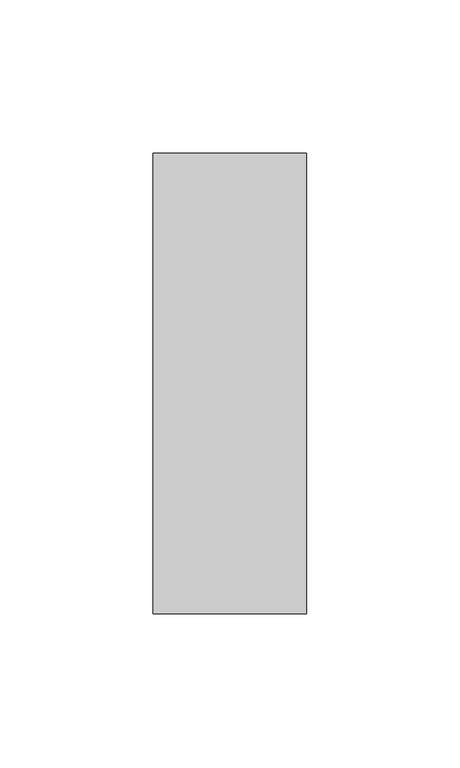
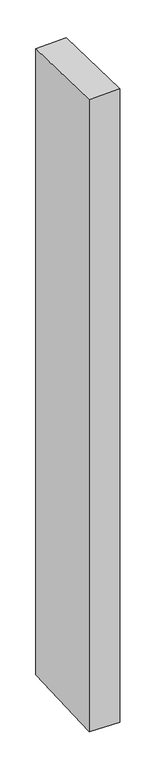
"""IFC4 building model written with IfcOpenShell, lengths in millimetres: member geometry, Прямоугольный импост : 50 x 150 мм."""

import ifcopenshell
import ifcopenshell.guid

model = None  # the IFC model being written
_history = None  # IfcOwnerHistory: only IFC2X3 demands one
_inside = {}  # id of a spatial element -> (the spatial element, [elements in it])
_under = {}  # id of a project, library or spatial element -> (it, [spatial elements below it])
_declared = {}  # id of a project -> (the project, [libraries it declares])
_typed = {}  # id of a type object -> (the type object, [elements of that type])
_made_of = {}  # id of a material, layer set ... -> (it, [elements and type objects made of it])


def new_model(schema):
    """Start an empty IFC model of exactly this schema.

    Asked for "IFC4X3", IfcOpenShell would pick the latest addendum, in which some entities
    have other attributes; the version numbers below select the first issue.
    IFC2X3 requires an IfcOwnerHistory on every rooted entity: one is made here for all.
    """
    global model, _history
    if schema == "IFC4X3":
        model = ifcopenshell.file(schema_version=(4, 3, 0, 0))
    else:
        model = ifcopenshell.file(schema=schema)
    _inside.clear()
    _under.clear()
    _declared.clear()
    _typed.clear()
    _made_of.clear()
    _history = None
    if model.schema == "IFC2X3":
        org = make("IfcOrganization", Name="unknown")
        user = make(
            "IfcPersonAndOrganization",
            ThePerson=make("IfcPerson", FamilyName="unknown"),
            TheOrganization=org,
        )
        app = make(
            "IfcApplication",
            ApplicationDeveloper=org,
            Version="unknown",
            ApplicationFullName="unknown",
            ApplicationIdentifier="unknown",
        )
        _history = make(
            "IfcOwnerHistory",
            OwningUser=user,
            OwningApplication=app,
            ChangeAction="ADDED",
            CreationDate=0,
        )
    return model


def make(cls, **values):
    """One entity of the class cls with the attributes given. An attribute that is None is left unset."""
    return model.create_entity(
        cls, **{name: value for name, value in values.items() if value is not None}
    )


def rooted(cls, **values):
    """An entity with a GlobalId (a new one), such as an element, a storey or a relation."""
    return make(cls, GlobalId=ifcopenshell.guid.new(), OwnerHistory=_history, **values)


def si_unit(unit_type, name, prefix=None):
    """IfcSIUnit, for example si_unit("LENGTHUNIT", "METRE", prefix="MILLI")."""
    return make("IfcSIUnit", UnitType=unit_type, Prefix=prefix, Name=name)


def assignment(units):
    """IfcUnitAssignment: the units of a project."""
    return None if units is None else make("IfcUnitAssignment", Units=units)


def point(xyz):
    """IfcCartesianPoint."""
    return None if xyz is None else make("IfcCartesianPoint", Coordinates=xyz)


def direction(xyz):
    """IfcDirection."""
    return None if xyz is None else make("IfcDirection", DirectionRatios=xyz)


def frame(location, z_axis=None, x_axis=None):
    """IfcAxis2Placement3D, a coordinate frame: its origin and axes. An axis left out is left unset."""
    return make(
        "IfcAxis2Placement3D",
        Location=point(location),
        Axis=direction(z_axis),
        RefDirection=direction(x_axis),
    )


def origin():
    """The frame at (0, 0, 0) with its axes left unset."""
    return frame((0.0, 0.0, 0.0))


def place(relative_to, where):
    """IfcLocalPlacement: puts the frame where relative to a parent placement (None: the world)."""
    return make(
        "IfcLocalPlacement", PlacementRelTo=relative_to, RelativePlacement=where
    )


def context(
    kind, dimensions, precision=None, world=None, true_north=None, identifier=None
):
    """IfcGeometricRepresentationContext, for example the 3D "Model" context."""
    return make(
        "IfcGeometricRepresentationContext",
        ContextIdentifier=identifier,
        ContextType=kind,
        CoordinateSpaceDimension=dimensions,
        Precision=precision,
        WorldCoordinateSystem=world,
        TrueNorth=true_north,
    )


def project(units=None, contexts=None):
    """IfcProject with its units and contexts."""
    return rooted(
        "IfcProject",
        Name="project",
        RepresentationContexts=contexts,
        UnitsInContext=assignment(units),
    )


def spatial(cls, under=None, at=None, **own):
    """A site, building, storey or space (cls), placed at a placement, below another one or the project."""
    s = rooted(cls, ObjectPlacement=at, **own)
    if under is not None:
        _under.setdefault(under.id(), (under, []))[1].append(s)
    return s


def faces_of(points, faces, orient=None, outer=None):
    """IfcFace entities. A face is a list of loops; a loop is a list of indices into points, from 0.

    orient and outer hold one flag for each loop. By default every Orientation is true, the
    first loop of a face is its IfcFaceOuterBound and the others are IfcFaceBound.
    """
    made = []
    for i, loops in enumerate(faces):
        bounds = []
        for j, loop in enumerate(loops):
            is_outer = j == 0 if outer is None else outer[i][j]
            bounds.append(
                make(
                    "IfcFaceOuterBound" if is_outer else "IfcFaceBound",
                    Bound=make("IfcPolyLoop", Polygon=[points[k] for k in loop]),
                    Orientation=True if orient is None else orient[i][j],
                )
            )
        made.append(make("IfcFace", Bounds=bounds))
    return made


def faceted_brep(points, faces, orient=None, outer=None, voids=None):
    """IfcFacetedBrep: a solid bounded by flat faces; with voids (closed shells), ...WithVoids."""
    shared = [point(p) for p in points]
    hull = make("IfcClosedShell", CfsFaces=faces_of(shared, faces, orient, outer))
    if voids is None:
        return make("IfcFacetedBrep", Outer=hull)
    return make(
        "IfcFacetedBrepWithVoids",
        Outer=hull,
        Voids=[
            make(cls, CfsFaces=faces_of(shared, fs, o, b)) for cls, fs, o, b in voids
        ],
    )


def shape(context_of_items, identifier, shape_type, items):
    """IfcShapeRepresentation: the items that make up one representation, for example the "Body"."""
    return make(
        "IfcShapeRepresentation",
        ContextOfItems=context_of_items,
        RepresentationIdentifier=identifier,
        RepresentationType=shape_type,
        Items=items,
    )


def source(mapping_origin, context_of_items, identifier, shape_type, items):
    """IfcRepresentationMap: a shape defined once, which mapped items show again and again."""
    return make(
        "IfcRepresentationMap",
        MappingOrigin=mapping_origin,
        MappedRepresentation=shape(context_of_items, identifier, shape_type, items),
    )


def transform(
    local_origin,
    x_axis=None,
    y_axis=None,
    z_axis=None,
    scale=None,
    scale2=None,
    scale3=None,
    uniform=True,
):
    """IfcCartesianTransformationOperator3D, or its non-uniform kind. x_axis, y_axis, z_axis: its Axis1, 2, 3."""
    if uniform:
        return make(
            "IfcCartesianTransformationOperator3D",
            Axis1=direction(x_axis),
            Axis2=direction(y_axis),
            LocalOrigin=point(local_origin),
            Scale=scale,
            Axis3=direction(z_axis),
        )
    return make(
        "IfcCartesianTransformationOperator3DnonUniform",
        Axis1=direction(x_axis),
        Axis2=direction(y_axis),
        LocalOrigin=point(local_origin),
        Scale=scale,
        Axis3=direction(z_axis),
        Scale2=scale2,
        Scale3=scale3,
    )


def mapped(mapping_source, mapping_target):
    """IfcMappedItem: shows the shape of a source again, moved by a transform."""
    return make(
        "IfcMappedItem", MappingSource=mapping_source, MappingTarget=mapping_target
    )


def made_of(thing, what):
    """Note that an element or type object is made of a material, layer set ...; save() writes the relation."""
    if what is not None:
        _made_of.setdefault(what.id(), (what, []))[1].append(thing)
    return thing


def element(
    cls,
    number,
    at=None,
    inside=None,
    cuts=None,
    type_object=None,
    material=None,
    context=None,
    identifier="Body",
    shape_type=None,
    held_by="IfcProductDefinitionShape",
    body=None,
    shapes=None,
    **own,
):
    """One element of the class cls, such as IfcWall. Its Tag is "e" and its number.

    at: its placement. inside: the storey or other place that contains it. cuts: it is an
    opening in that element (IfcRelVoidsElement). A single representation is given by context,
    identifier, shape_type and body (its items); several are given by shapes. held_by: the class
    of the entity that holds the representations. save() writes the other relations.
    """
    e = rooted(cls, Tag="e%d" % number, ObjectPlacement=at, **own)
    if body is not None:
        shapes = [shape(context, identifier, shape_type, body)]
    if shapes is not None:
        e.Representation = make(held_by, Representations=shapes)
    if inside is not None:
        _inside.setdefault(inside.id(), (inside, []))[1].append(e)
    if cuts is not None:
        rooted(
            "IfcRelVoidsElement", RelatingBuildingElement=cuts, RelatedOpeningElement=e
        )
    if type_object is not None:
        _typed.setdefault(type_object.id(), (type_object, []))[1].append(e)
    return made_of(e, material)


def aggregate(whole, parts):
    """IfcRelAggregates: a whole, such as a stair, and the parts it consists of."""
    return rooted("IfcRelAggregates", RelatingObject=whole, RelatedObjects=parts)


def save(model, path):
    """Write the relations noted so far, then the file.

    IfcRelAggregates (storeys below a building ...), IfcRelContainedInSpatialStructure (elements
    in a storey), IfcRelDefinesByType, IfcRelAssociatesMaterial and IfcRelDeclares: one each for
    every whole, place, type object, material and project.
    """
    for whole, parts in _under.values():
        aggregate(whole, parts)
    for where, things in _inside.values():
        rooted(
            "IfcRelContainedInSpatialStructure",
            RelatedElements=things,
            RelatingStructure=where,
        )
    for kind, things in _typed.values():
        rooted("IfcRelDefinesByType", RelatedObjects=things, RelatingType=kind)
    for what, things in _made_of.values():
        rooted("IfcRelAssociatesMaterial", RelatedObjects=things, RelatingMaterial=what)
    for by, libraries in _declared.values():
        rooted("IfcRelDeclares", RelatingContext=by, RelatedDefinitions=libraries)
    model.write(path)


def member_0f1de11c(model_context):
    return source(origin(), model_context, "Body", "Brep", [
        faceted_brep([(-25.0, 75.0, -2.312411), (25.0, 75.0, -0.9517532), (25.0, 75.0, -1076.404755), (-25.0, 75.0, -1075.1140828), (-25.0, -75.0, 0.9517532), (-25.0, -75.0, -1081.9386396), (25.0, -75.0, 2.312411), (25.0, -75.0, -1083.2293118)], [[[0, 1, 2, 3]], [[4, 0, 3, 5]], [[6, 4, 5, 7]], [[1, 6, 7, 2]], [[1, 0, 4, 6]], [[2, 7, 5, 3]]]),
    ])


if __name__ == "__main__":
    model = new_model("IFC4")
    model_context = context("Model", 3, world=origin())
    ifc_project = project(units=[si_unit("LENGTHUNIT", "METRE", prefix="MILLI")], contexts=[model_context])
    site = spatial("IfcSite", under=ifc_project)
    building = spatial("IfcBuilding", under=site)
    placement = place(None, origin())
    member_shape = member_0f1de11c(model_context)
    element("IfcMember", 1, ObjectType="Прямоугольный импост : 50 x 150 мм", at=placement, inside=building, context=model_context, shape_type="MappedRepresentation", body=[
        mapped(member_shape, transform((0.0, 0.0, 0.0), x_axis=(1.0, 0.0, 0.0), y_axis=(0.0, 1.0, 0.0), z_axis=(0.0, 0.0, 1.0))),
    ])
    save(model, "model.ifc")
